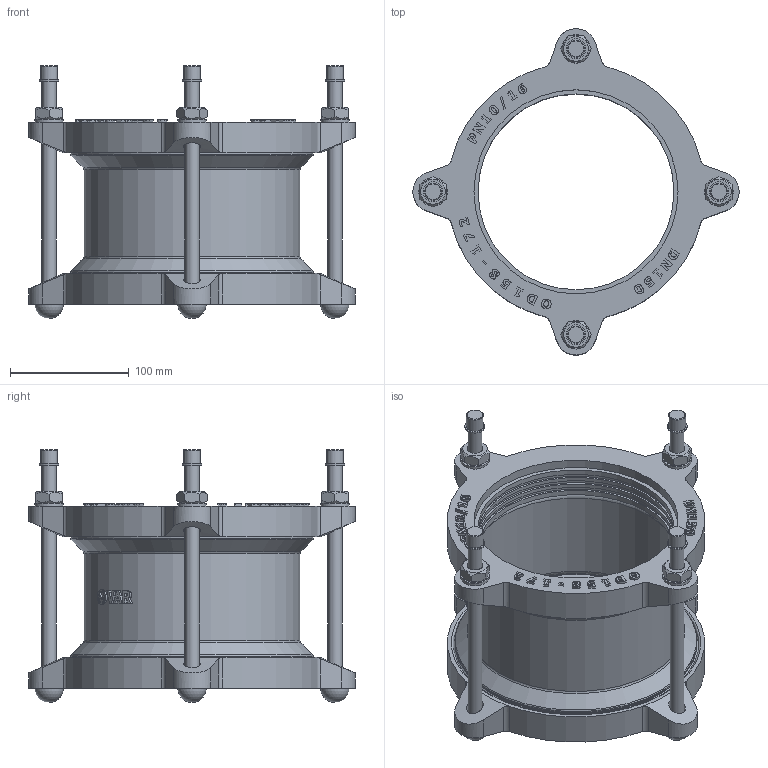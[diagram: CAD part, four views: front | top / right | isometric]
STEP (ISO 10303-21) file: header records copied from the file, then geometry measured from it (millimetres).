
FILE_DESCRIPTION(('STEP AP203'), '1');
FILE_NAME('Cîåäèíèòåëüíàÿ ìóôòà äëÿ æåñòêèõ òðóá', '', ('UNSPECIFIED'), ('UNSPECIFIED'), 'C3D Converter', 'C3D Toolkit', '');
FILE_SCHEMA(('CONFIG_CONTROL_DESIGN'));
Length unit declared in the file: millimetre
Assembly tree (21 placements, depth 2):
  (unnamed)
    (unnamed)
    (unnamed)  x4
    (unnamed)  x4
    (unnamed)  x4
    (unnamed)  x4
    (unnamed)
    (unnamed)
    (unnamed)  x2
Bounding box: 275 x 275 x 213.2 mm (x, y, z)
Volume: 1398618.9 mm3; surface area: 451209.8 mm2
Topology: 25 solids, 25 shells, 762 faces, 1913 edges, 1257 vertices
Faces by surface type: plane 301, extrusion 296, cylinder 105, cone 34, torus 22, sphere 4
Full cylindrical faces by diameter (mm): 12 x12, 12.253 x1, 13 x4, 14 x8, 14.4 x4, 16.8 x4, 24 x4, 165 x8, 168.5 x6, 172 x3, 177 x2, 182 x3, 204.5 x2, 207 x4
Entity records: 29937 total; most frequent: CARTESIAN_POINT 10487, ORIENTED_EDGE 3292, DIRECTION 2178, EDGE_CURVE 1646, VERTEX_POINT 1126, VECTOR 1094, B_SPLINE_CURVE_WITH_KNOTS 949, EDGE_LOOP 798
